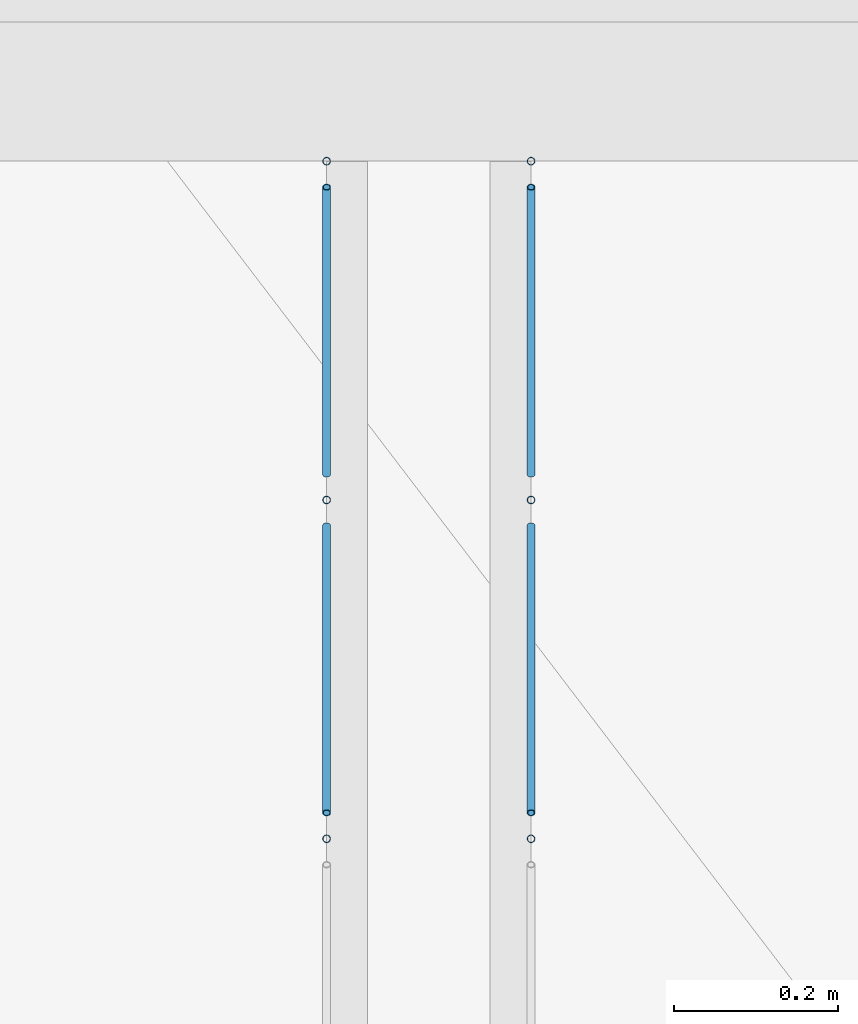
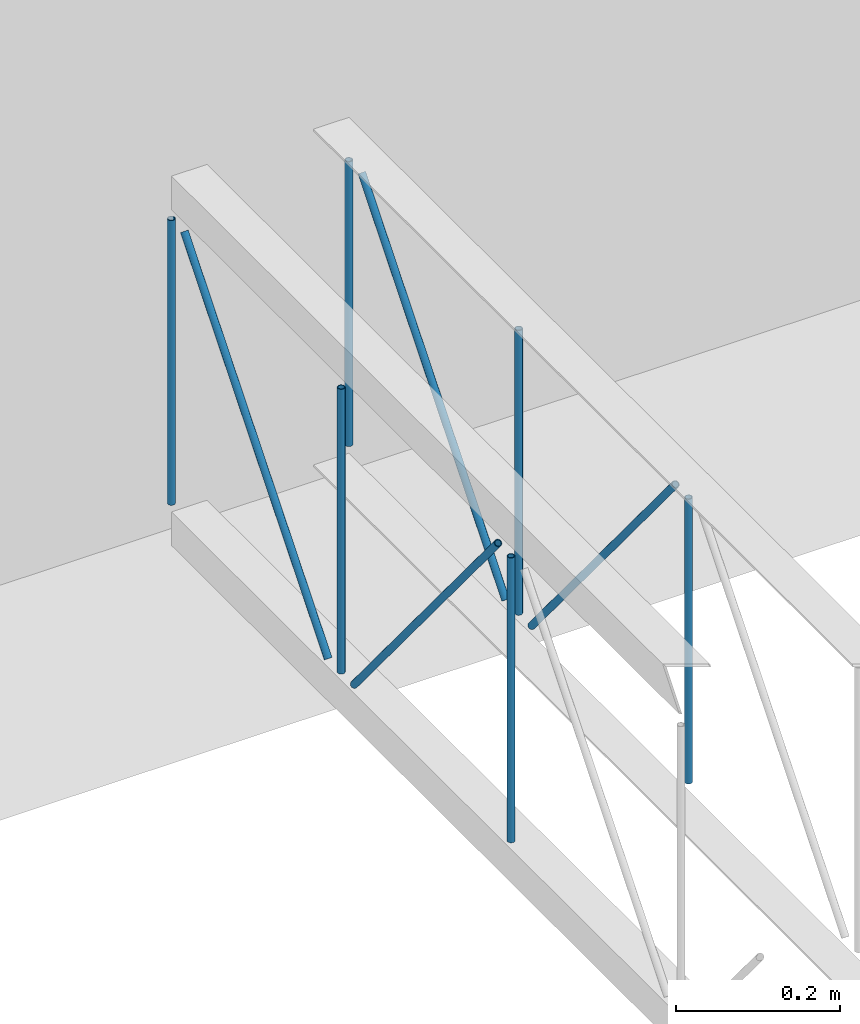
# One storey, part 98 of 153: 10 members, 2 elements without a shape of their own.
"""IFC4 building model written with IfcOpenShell, lengths in metres."""

from ifc_helpers import new_model, entity, si_unit, converted_unit, derived_unit, direction, frame, origin, place, context, subcontext, project, spatial, arc, indexed_curve, outline, extrude, source, transform, mapped, material, type_object, type_shapes, element, aggregate, save


model = new_model("IFC4")

# Units and contexts
model_context = context("Model", 3, precision=1e-05, world=origin(), true_north=direction((6.123031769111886e-17, 1.0)))
body_context = subcontext(model_context, "Body", "Model", "MODEL_VIEW")
ifc_project = project(units=[si_unit("LENGTHUNIT", "METRE"), si_unit("AREAUNIT", "SQUARE_METRE"), si_unit("VOLUMEUNIT", "CUBIC_METRE"), converted_unit("PLANEANGLEUNIT", "DEGREE", entity("IfcRatioMeasure", 0.017453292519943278), si_unit("PLANEANGLEUNIT", "RADIAN"), dimensions=[0, 0, 0, 0, 0, 0, 0]), si_unit("MASSUNIT", "GRAM", prefix="KILO"), derived_unit("MASSDENSITYUNIT", [(si_unit("MASSUNIT", "GRAM", prefix="KILO"), 1), (si_unit("LENGTHUNIT", "METRE"), -3)]), derived_unit("MOMENTOFINERTIAUNIT", [(si_unit("LENGTHUNIT", "METRE"), 4)]), si_unit("TIMEUNIT", "SECOND"), si_unit("FREQUENCYUNIT", "HERTZ"), si_unit("THERMODYNAMICTEMPERATUREUNIT", "DEGREE_CELSIUS"), derived_unit("THERMALTRANSMITTANCEUNIT", [(si_unit("MASSUNIT", "GRAM", prefix="KILO"), 1), (si_unit("THERMODYNAMICTEMPERATUREUNIT", "KELVIN"), -1), (si_unit("TIMEUNIT", "SECOND"), -3)]), derived_unit("VOLUMETRICFLOWRATEUNIT", [(si_unit("LENGTHUNIT", "METRE"), 3), (si_unit("TIMEUNIT", "SECOND"), -1)]), derived_unit("MASSFLOWRATEUNIT", [(si_unit("MASSUNIT", "GRAM", prefix="KILO"), 1), (si_unit("TIMEUNIT", "SECOND"), -1)]), derived_unit("ROTATIONALFREQUENCYUNIT", [(si_unit("TIMEUNIT", "SECOND"), -1)]), si_unit("ELECTRICCURRENTUNIT", "AMPERE"), si_unit("ELECTRICVOLTAGEUNIT", "VOLT"), si_unit("POWERUNIT", "WATT"), si_unit("FORCEUNIT", "NEWTON", prefix="KILO"), si_unit("ILLUMINANCEUNIT", "LUX"), si_unit("LUMINOUSFLUXUNIT", "LUMEN"), si_unit("LUMINOUSINTENSITYUNIT", "CANDELA"), derived_unit("USERDEFINED", [(si_unit("MASSUNIT", "GRAM", prefix="KILO"), -1), (si_unit("LENGTHUNIT", "METRE"), -2), (si_unit("TIMEUNIT", "SECOND"), 3), (si_unit("LUMINOUSFLUXUNIT", "LUMEN"), 1)]), derived_unit("SOUNDPOWERUNIT", [(si_unit("MASSUNIT", "GRAM", prefix="KILO"), 1), (si_unit("LENGTHUNIT", "METRE"), 2), (si_unit("TIMEUNIT", "SECOND"), -3)]), derived_unit("SOUNDPRESSUREUNIT", [(si_unit("MASSUNIT", "GRAM", prefix="KILO"), 1), (si_unit("LENGTHUNIT", "METRE"), -1), (si_unit("TIMEUNIT", "SECOND"), -2)]), derived_unit("LINEARVELOCITYUNIT", [(si_unit("LENGTHUNIT", "METRE"), 1), (si_unit("TIMEUNIT", "SECOND"), -1)]), si_unit("PRESSUREUNIT", "PASCAL"), derived_unit("USERDEFINED", [(si_unit("LENGTHUNIT", "METRE"), -2), (si_unit("MASSUNIT", "GRAM", prefix="KILO"), 1), (si_unit("TIMEUNIT", "SECOND"), -2)]), derived_unit("LINEARFORCEUNIT", [(si_unit("MASSUNIT", "GRAM", prefix="KILO"), 1), (si_unit("LENGTHUNIT", "METRE"), 1), (si_unit("TIMEUNIT", "SECOND"), -2), (si_unit("LENGTHUNIT", "METRE"), -1)]), derived_unit("PLANARFORCEUNIT", [(si_unit("MASSUNIT", "GRAM", prefix="KILO"), 1), (si_unit("LENGTHUNIT", "METRE"), 1), (si_unit("TIMEUNIT", "SECOND"), -2), (si_unit("LENGTHUNIT", "METRE"), -2)])], contexts=[model_context])

# Site, building, storey
site_placement = place(None, origin())
site = spatial("IfcSite", under=ifc_project, at=site_placement, Name="Superficie", CompositionType="ELEMENT")
building_placement = place(site_placement, origin())
building = spatial("IfcBuilding", under=site, at=building_placement, CompositionType="ELEMENT")
storey_placement = place(building_placement, frame((0.0, 0.0, 3.5999999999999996)))
storey = spatial("IfcBuildingStorey", under=building, at=storey_placement, Name="Nivel 1", CompositionType="ELEMENT", Elevation=3.5999999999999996)

# Assembly, members
assembly_1_placement = place(storey_placement, origin())
assembly_1 = element("IfcElementAssembly", 1, at=assembly_1_placement, inside=storey, Name="Viga de celosia 13:Viga de celosia 13", ObjectType="Viga de celosia 13:Viga de celosia 13", AssemblyPlace="NOTDEFINED", PredefinedType="TRUSS")
ifc_material = material(Name="Metal - Calibre delgado", Category="Metal")
member_type_1 = type_object("IfcMemberType", Name="HSS-Tubo estructural redondo:HSS 0.01", PredefinedType="BRACE", material=ifc_material)
shared_shape_1 = source(origin(), body_context, "Body", "SweptSolid", [
    extrude(outline(indexed_curve([(-0.005000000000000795, 7.502054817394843e-18), (-9.800269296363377e-18, -0.005000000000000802), (0.005000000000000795, -7.502054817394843e-18), (8.07772287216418e-18, 0.005000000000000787)], segments=[arc(1, 2, 3), arc(3, 4, 1)], self_intersect=False), holes=[indexed_curve([(0.003999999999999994, 7.222511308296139e-17), (6.910645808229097e-17, -0.004000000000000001), (-0.003999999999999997, -1.8650054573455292e-17), (-2.9156497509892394e-17, 0.003999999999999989)], segments=[arc(1, 2, 3), arc(3, 4, 1)], self_intersect=False)]), frame((-0.21200000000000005, 0.0, 0.0), z_axis=(1.0, 0.0, 0.0), x_axis=(0.0, 1.0, 0.0)), (0.0, 0.0, 1.0), 0.4240000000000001),
])
type_shapes(member_type_1, [shared_shape_1])
member_1_placement = place(assembly_1_placement, frame((15.836799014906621, -4.1622989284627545, 0.25), z_axis=(0.0, 1.0, 0.0), x_axis=(0.0, 0.0, 1.0)))
member_1 = element("IfcMember", 2, at=member_1_placement, type_object=member_type_1, material=ifc_material, Name="HSS-Tubo estructural redondo:HSS 0.01", ObjectType="HSS-Tubo estructural redondo:HSS 0.01", PredefinedType="BRACE", context=body_context, shape_type="MappedRepresentation", body=[
    mapped(shared_shape_1, transform((0.0, 0.0, 0.0), scale=1.0)),
])
member_2_placement = place(assembly_1_placement, frame((15.836799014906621, -3.7479528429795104, 0.25), z_axis=(0.0, 1.0, 0.0), x_axis=(0.0, 0.0, 1.0)))
member_2 = element("IfcMember", 3, at=member_2_placement, type_object=member_type_1, material=ifc_material, Name="HSS-Tubo estructural redondo:HSS 0.01", ObjectType="HSS-Tubo estructural redondo:HSS 0.01", PredefinedType="BRACE", context=body_context, shape_type="MappedRepresentation", body=[
    mapped(shared_shape_1, transform((0.0, 0.0, 0.0), scale=1.0)),
])
member_3_placement = place(assembly_1_placement, frame((15.836799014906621, -3.333606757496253, 0.25), z_axis=(0.0, 1.0, 0.0), x_axis=(0.0, 0.0, 1.0)))
member_3 = element("IfcMember", 4, at=member_3_placement, type_object=member_type_1, material=ifc_material, Name="HSS-Tubo estructural redondo:HSS 0.01", ObjectType="HSS-Tubo estructural redondo:HSS 0.01", PredefinedType="BRACE", context=body_context, shape_type="MappedRepresentation", body=[
    mapped(shared_shape_1, transform((0.0, 0.0, 0.0), scale=1.0)),
])
member_type_2 = type_object("IfcMemberType", Name="HSS-Tubo estructural redondo:HSS 0.01", PredefinedType="BRACE", material=ifc_material)
shared_shape_2 = source(origin(), body_context, "Body", "SweptSolid", [
    extrude(outline(indexed_curve([(-0.005000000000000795, 7.502054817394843e-18), (-9.800269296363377e-18, -0.005000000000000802), (0.005000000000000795, -7.502054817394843e-18), (8.07772287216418e-18, 0.005000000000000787)], segments=[arc(1, 2, 3), arc(3, 4, 1)], self_intersect=False), holes=[indexed_curve([(0.003999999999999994, 7.222511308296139e-17), (6.910645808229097e-17, -0.004000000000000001), (-0.003999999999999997, -1.8650054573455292e-17), (-2.9156497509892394e-17, 0.003999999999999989)], segments=[arc(1, 2, 3), arc(3, 4, 1)], self_intersect=False)]), frame((-0.275, 0.0, 0.0), z_axis=(1.0, 0.0, 0.0), x_axis=(0.0, 1.0, 0.0)), (0.0, 0.0, 1.0), 0.55),
])
type_shapes(member_type_2, [shared_shape_2])
member_4_placement = place(assembly_1_placement, frame((15.836799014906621, -3.9551258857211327, 0.25), z_axis=(0.0, -0.7699758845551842, -0.6380729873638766), x_axis=(0.0, 0.6380729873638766, -0.7699758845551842)))
member_4 = element("IfcMember", 5, at=member_4_placement, type_object=member_type_2, material=ifc_material, Name="HSS-Tubo estructural redondo:HSS 0.01", ObjectType="HSS-Tubo estructural redondo:HSS 0.01", PredefinedType="BRACE", context=body_context, shape_type="MappedRepresentation", body=[
    mapped(shared_shape_2, transform((0.0, 0.0, 0.0), scale=1.0)),
])
member_5_placement = place(assembly_1_placement, frame((15.836799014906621, -3.540779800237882, 0.25), z_axis=(0.0, 0.7699758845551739, -0.638072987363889), x_axis=(0.0, 0.638072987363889, 0.7699758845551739)))
member_5 = element("IfcMember", 6, at=member_5_placement, type_object=member_type_2, material=ifc_material, Name="HSS-Tubo estructural redondo:HSS 0.01", ObjectType="HSS-Tubo estructural redondo:HSS 0.01", PredefinedType="BRACE", context=body_context, shape_type="MappedRepresentation", body=[
    mapped(shared_shape_2, transform((0.0, 0.0, 0.0), scale=1.0)),
])
aggregate(assembly_1, [member_1, member_2, member_3, member_4, member_5])

assembly_2_placement = place(storey_placement, origin())
assembly_2 = element("IfcElementAssembly", 7, at=assembly_2_placement, inside=storey, Name="Viga de celosia 13:Viga de celosia 13", ObjectType="Viga de celosia 13:Viga de celosia 13", AssemblyPlace="NOTDEFINED", PredefinedType="TRUSS")
member_type_3 = type_object("IfcMemberType", Name="HSS-Tubo estructural redondo:HSS 0.01", PredefinedType="BRACE", material=ifc_material)
shared_shape_3 = source(origin(), body_context, "Body", "SweptSolid", [
    extrude(outline(indexed_curve([(-0.005000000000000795, 2.0824731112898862e-17), (-2.3122945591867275e-17, -0.005000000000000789), (0.005000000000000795, -2.08247311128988e-17), (2.14003991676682e-17, 0.005000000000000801)], segments=[arc(1, 2, 3), arc(3, 4, 1)], self_intersect=False), holes=[indexed_curve([(0.003999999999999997, -1.3094283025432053e-17), (-1.531427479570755e-18, -0.003999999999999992), (-0.004, 4.0098531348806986e-17), (4.1481388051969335e-17, 0.0039999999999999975)], segments=[arc(1, 2, 3), arc(3, 4, 1)], self_intersect=False)]), frame((-0.21200000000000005, 0.0, 0.0), z_axis=(1.0, 0.0, 0.0), x_axis=(0.0, -1.0, 0.0)), (0.0, 0.0, 1.0), 0.4240000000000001),
])
type_shapes(member_type_3, [shared_shape_3])
member_6_placement = place(assembly_2_placement, frame((16.086799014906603, -4.1622989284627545, 0.25), z_axis=(0.0, 1.0, 0.0), x_axis=(0.0, 0.0, 1.0)))
member_6 = element("IfcMember", 8, at=member_6_placement, type_object=member_type_3, material=ifc_material, Name="HSS-Tubo estructural redondo:HSS 0.01", ObjectType="HSS-Tubo estructural redondo:HSS 0.01", PredefinedType="BRACE", context=body_context, shape_type="MappedRepresentation", body=[
    mapped(shared_shape_3, transform((0.0, 0.0, 0.0), scale=1.0)),
])
member_7_placement = place(assembly_2_placement, frame((16.086799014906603, -3.7479528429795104, 0.25), z_axis=(0.0, 1.0, 0.0), x_axis=(0.0, 0.0, 1.0)))
member_7 = element("IfcMember", 9, at=member_7_placement, type_object=member_type_3, material=ifc_material, Name="HSS-Tubo estructural redondo:HSS 0.01", ObjectType="HSS-Tubo estructural redondo:HSS 0.01", PredefinedType="BRACE", context=body_context, shape_type="MappedRepresentation", body=[
    mapped(shared_shape_3, transform((0.0, 0.0, 0.0), scale=1.0)),
])
member_8_placement = place(assembly_2_placement, frame((16.086799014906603, -3.333606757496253, 0.25), z_axis=(0.0, 1.0, 0.0), x_axis=(0.0, 0.0, 1.0)))
member_8 = element("IfcMember", 10, at=member_8_placement, type_object=member_type_3, material=ifc_material, Name="HSS-Tubo estructural redondo:HSS 0.01", ObjectType="HSS-Tubo estructural redondo:HSS 0.01", PredefinedType="BRACE", context=body_context, shape_type="MappedRepresentation", body=[
    mapped(shared_shape_3, transform((0.0, 0.0, 0.0), scale=1.0)),
])
member_type_4 = type_object("IfcMemberType", Name="HSS-Tubo estructural redondo:HSS 0.01", PredefinedType="BRACE", material=ifc_material)
shared_shape_4 = source(origin(), body_context, "Body", "SweptSolid", [
    extrude(outline(indexed_curve([(-0.005000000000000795, 2.0824731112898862e-17), (-2.3122945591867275e-17, -0.005000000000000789), (0.005000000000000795, -2.08247311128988e-17), (2.14003991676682e-17, 0.005000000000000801)], segments=[arc(1, 2, 3), arc(3, 4, 1)], self_intersect=False), holes=[indexed_curve([(0.003999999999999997, -1.3094283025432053e-17), (-1.531427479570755e-18, -0.003999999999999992), (-0.004, 4.0098531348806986e-17), (4.1481388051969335e-17, 0.0039999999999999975)], segments=[arc(1, 2, 3), arc(3, 4, 1)], self_intersect=False)]), frame((-0.275, 0.0, 0.0), z_axis=(1.0, 0.0, 0.0), x_axis=(0.0, -1.0, 0.0)), (0.0, 0.0, 1.0), 0.55),
])
type_shapes(member_type_4, [shared_shape_4])
member_9_placement = place(assembly_2_placement, frame((16.086799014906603, -3.9551258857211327, 0.25), z_axis=(0.0, -0.7699758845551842, -0.6380729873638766), x_axis=(0.0, 0.6380729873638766, -0.7699758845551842)))
member_9 = element("IfcMember", 11, at=member_9_placement, type_object=member_type_4, material=ifc_material, Name="HSS-Tubo estructural redondo:HSS 0.01", ObjectType="HSS-Tubo estructural redondo:HSS 0.01", PredefinedType="BRACE", context=body_context, shape_type="MappedRepresentation", body=[
    mapped(shared_shape_4, transform((0.0, 0.0, 0.0), scale=1.0)),
])
member_10_placement = place(assembly_2_placement, frame((16.086799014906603, -3.540779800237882, 0.25), z_axis=(0.0, 0.7699758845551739, -0.638072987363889), x_axis=(0.0, 0.638072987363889, 0.7699758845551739)))
member_10 = element("IfcMember", 12, at=member_10_placement, type_object=member_type_4, material=ifc_material, Name="HSS-Tubo estructural redondo:HSS 0.01", ObjectType="HSS-Tubo estructural redondo:HSS 0.01", PredefinedType="BRACE", context=body_context, shape_type="MappedRepresentation", body=[
    mapped(shared_shape_4, transform((0.0, 0.0, 0.0), scale=1.0)),
])
aggregate(assembly_2, [member_6, member_7, member_8, member_9, member_10])

save(model, "model.ifc")
